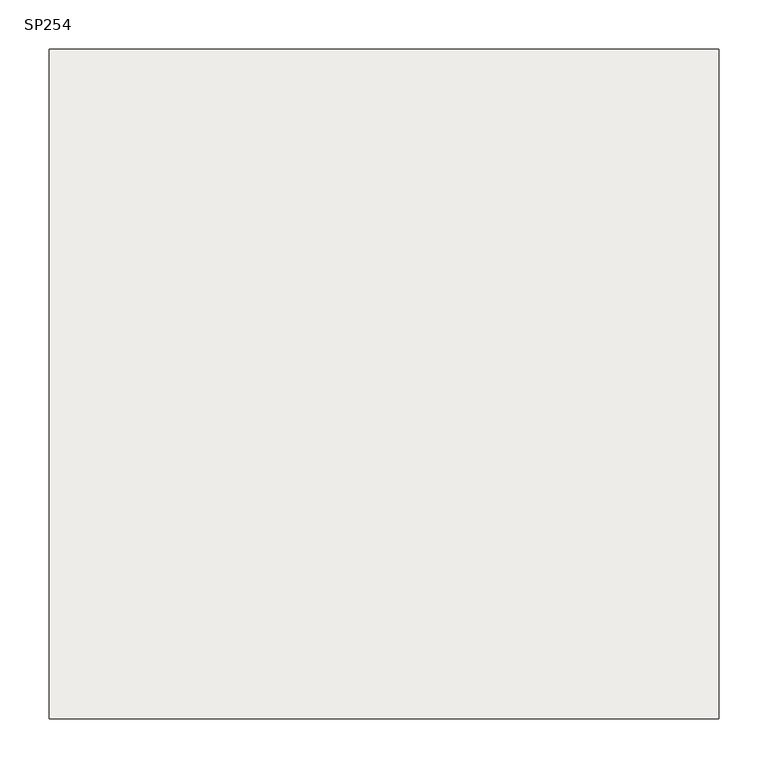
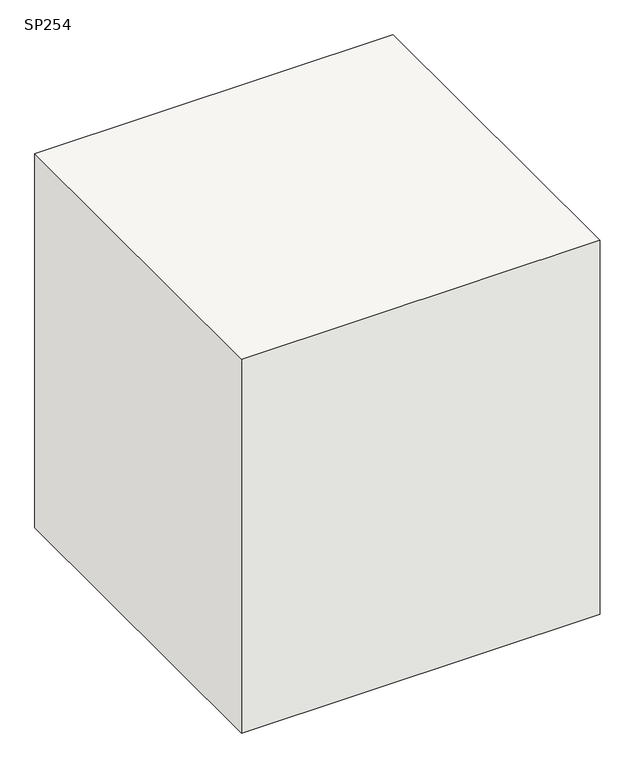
"""IFC4 building model written with IfcOpenShell, lengths in millimetres: slab geometry, 柱形_SP : SP254."""

import ifcopenshell
import ifcopenshell.guid

model = None  # the IFC model being written
_history = None  # IfcOwnerHistory: only IFC2X3 demands one
_inside = {}  # id of a spatial element -> (the spatial element, [elements in it])
_under = {}  # id of a project, library or spatial element -> (it, [spatial elements below it])
_declared = {}  # id of a project -> (the project, [libraries it declares])
_typed = {}  # id of a type object -> (the type object, [elements of that type])
_made_of = {}  # id of a material, layer set ... -> (it, [elements and type objects made of it])


def new_model(schema):
    """Start an empty IFC model of exactly this schema.

    Asked for "IFC4X3", IfcOpenShell would pick the latest addendum, in which some entities
    have other attributes; the version numbers below select the first issue.
    IFC2X3 requires an IfcOwnerHistory on every rooted entity: one is made here for all.
    """
    global model, _history
    if schema == "IFC4X3":
        model = ifcopenshell.file(schema_version=(4, 3, 0, 0))
    else:
        model = ifcopenshell.file(schema=schema)
    _inside.clear()
    _under.clear()
    _declared.clear()
    _typed.clear()
    _made_of.clear()
    _history = None
    if model.schema == "IFC2X3":
        org = make("IfcOrganization", Name="unknown")
        user = make(
            "IfcPersonAndOrganization",
            ThePerson=make("IfcPerson", FamilyName="unknown"),
            TheOrganization=org,
        )
        app = make(
            "IfcApplication",
            ApplicationDeveloper=org,
            Version="unknown",
            ApplicationFullName="unknown",
            ApplicationIdentifier="unknown",
        )
        _history = make(
            "IfcOwnerHistory",
            OwningUser=user,
            OwningApplication=app,
            ChangeAction="ADDED",
            CreationDate=0,
        )
    return model


def make(cls, **values):
    """One entity of the class cls with the attributes given. An attribute that is None is left unset."""
    return model.create_entity(
        cls, **{name: value for name, value in values.items() if value is not None}
    )


def rooted(cls, **values):
    """An entity with a GlobalId (a new one), such as an element, a storey or a relation."""
    return make(cls, GlobalId=ifcopenshell.guid.new(), OwnerHistory=_history, **values)


def si_unit(unit_type, name, prefix=None):
    """IfcSIUnit, for example si_unit("LENGTHUNIT", "METRE", prefix="MILLI")."""
    return make("IfcSIUnit", UnitType=unit_type, Prefix=prefix, Name=name)


def assignment(units):
    """IfcUnitAssignment: the units of a project."""
    return None if units is None else make("IfcUnitAssignment", Units=units)


def point(xyz):
    """IfcCartesianPoint."""
    return None if xyz is None else make("IfcCartesianPoint", Coordinates=xyz)


def direction(xyz):
    """IfcDirection."""
    return None if xyz is None else make("IfcDirection", DirectionRatios=xyz)


def frame(location, z_axis=None, x_axis=None):
    """IfcAxis2Placement3D, a coordinate frame: its origin and axes. An axis left out is left unset."""
    return make(
        "IfcAxis2Placement3D",
        Location=point(location),
        Axis=direction(z_axis),
        RefDirection=direction(x_axis),
    )


def origin():
    """The frame at (0, 0, 0) with its axes left unset."""
    return frame((0.0, 0.0, 0.0))


def place(relative_to, where):
    """IfcLocalPlacement: puts the frame where relative to a parent placement (None: the world)."""
    return make(
        "IfcLocalPlacement", PlacementRelTo=relative_to, RelativePlacement=where
    )


def context(
    kind, dimensions, precision=None, world=None, true_north=None, identifier=None
):
    """IfcGeometricRepresentationContext, for example the 3D "Model" context."""
    return make(
        "IfcGeometricRepresentationContext",
        ContextIdentifier=identifier,
        ContextType=kind,
        CoordinateSpaceDimension=dimensions,
        Precision=precision,
        WorldCoordinateSystem=world,
        TrueNorth=true_north,
    )


def project(units=None, contexts=None):
    """IfcProject with its units and contexts."""
    return rooted(
        "IfcProject",
        Name="project",
        RepresentationContexts=contexts,
        UnitsInContext=assignment(units),
    )


def spatial(cls, under=None, at=None, **own):
    """A site, building, storey or space (cls), placed at a placement, below another one or the project."""
    s = rooted(cls, ObjectPlacement=at, **own)
    if under is not None:
        _under.setdefault(under.id(), (under, []))[1].append(s)
    return s


def polyline(points):
    """IfcPolyline through the points."""
    return make("IfcPolyline", Points=[point(p) for p in points])


def outline(outer, holes=None, kind="AREA"):
    """IfcArbitraryClosedProfileDef: a profile drawn as a closed curve; with holes, ...WithVoids."""
    if holes is None:
        return make("IfcArbitraryClosedProfileDef", ProfileType=kind, OuterCurve=outer)
    return make(
        "IfcArbitraryProfileDefWithVoids",
        ProfileType=kind,
        OuterCurve=outer,
        InnerCurves=holes,
    )


def extrude(swept, where, along, depth):
    """IfcExtrudedAreaSolid: the profile swept, set in the frame where, extruded along a direction by depth."""
    return make(
        "IfcExtrudedAreaSolid",
        SweptArea=swept,
        Position=where,
        ExtrudedDirection=direction(along),
        Depth=depth,
    )


def shape(context_of_items, identifier, shape_type, items):
    """IfcShapeRepresentation: the items that make up one representation, for example the "Body"."""
    return make(
        "IfcShapeRepresentation",
        ContextOfItems=context_of_items,
        RepresentationIdentifier=identifier,
        RepresentationType=shape_type,
        Items=items,
    )


def source(mapping_origin, context_of_items, identifier, shape_type, items):
    """IfcRepresentationMap: a shape defined once, which mapped items show again and again."""
    return make(
        "IfcRepresentationMap",
        MappingOrigin=mapping_origin,
        MappedRepresentation=shape(context_of_items, identifier, shape_type, items),
    )


def transform(
    local_origin,
    x_axis=None,
    y_axis=None,
    z_axis=None,
    scale=None,
    scale2=None,
    scale3=None,
    uniform=True,
):
    """IfcCartesianTransformationOperator3D, or its non-uniform kind. x_axis, y_axis, z_axis: its Axis1, 2, 3."""
    if uniform:
        return make(
            "IfcCartesianTransformationOperator3D",
            Axis1=direction(x_axis),
            Axis2=direction(y_axis),
            LocalOrigin=point(local_origin),
            Scale=scale,
            Axis3=direction(z_axis),
        )
    return make(
        "IfcCartesianTransformationOperator3DnonUniform",
        Axis1=direction(x_axis),
        Axis2=direction(y_axis),
        LocalOrigin=point(local_origin),
        Scale=scale,
        Axis3=direction(z_axis),
        Scale2=scale2,
        Scale3=scale3,
    )


def mapped(mapping_source, mapping_target):
    """IfcMappedItem: shows the shape of a source again, moved by a transform."""
    return make(
        "IfcMappedItem", MappingSource=mapping_source, MappingTarget=mapping_target
    )


def made_of(thing, what):
    """Note that an element or type object is made of a material, layer set ...; save() writes the relation."""
    if what is not None:
        _made_of.setdefault(what.id(), (what, []))[1].append(thing)
    return thing


def element(
    cls,
    number,
    at=None,
    inside=None,
    cuts=None,
    type_object=None,
    material=None,
    context=None,
    identifier="Body",
    shape_type=None,
    held_by="IfcProductDefinitionShape",
    body=None,
    shapes=None,
    **own,
):
    """One element of the class cls, such as IfcWall. Its Tag is "e" and its number.

    at: its placement. inside: the storey or other place that contains it. cuts: it is an
    opening in that element (IfcRelVoidsElement). A single representation is given by context,
    identifier, shape_type and body (its items); several are given by shapes. held_by: the class
    of the entity that holds the representations. save() writes the other relations.
    """
    e = rooted(cls, Tag="e%d" % number, ObjectPlacement=at, **own)
    if body is not None:
        shapes = [shape(context, identifier, shape_type, body)]
    if shapes is not None:
        e.Representation = make(held_by, Representations=shapes)
    if inside is not None:
        _inside.setdefault(inside.id(), (inside, []))[1].append(e)
    if cuts is not None:
        rooted(
            "IfcRelVoidsElement", RelatingBuildingElement=cuts, RelatedOpeningElement=e
        )
    if type_object is not None:
        _typed.setdefault(type_object.id(), (type_object, []))[1].append(e)
    return made_of(e, material)


def aggregate(whole, parts):
    """IfcRelAggregates: a whole, such as a stair, and the parts it consists of."""
    return rooted("IfcRelAggregates", RelatingObject=whole, RelatedObjects=parts)


def save(model, path):
    """Write the relations noted so far, then the file.

    IfcRelAggregates (storeys below a building ...), IfcRelContainedInSpatialStructure (elements
    in a storey), IfcRelDefinesByType, IfcRelAssociatesMaterial and IfcRelDeclares: one each for
    every whole, place, type object, material and project.
    """
    for whole, parts in _under.values():
        aggregate(whole, parts)
    for where, things in _inside.values():
        rooted(
            "IfcRelContainedInSpatialStructure",
            RelatedElements=things,
            RelatingStructure=where,
        )
    for kind, things in _typed.values():
        rooted("IfcRelDefinesByType", RelatedObjects=things, RelatingType=kind)
    for what, things in _made_of.values():
        rooted("IfcRelAssociatesMaterial", RelatedObjects=things, RelatingMaterial=what)
    for by, libraries in _declared.values():
        rooted("IfcRelDeclares", RelatingContext=by, RelatedDefinitions=libraries)
    model.write(path)


def sp254_342b2ffc(model_context):
    return source(origin(), model_context, "Body", "SweptSolid", [
        extrude(outline(polyline([(340.0, 340.0), (340.0, -340.0), (-340.0, -340.0), (-340.0, 340.0), (340.0, 340.0)])), frame((0.0, 0.0, -750.0), z_axis=(0.0, 0.0, 1.0), x_axis=(1.0, 0.0, 0.0)), (0.0, 0.0, 1.0), 750.0),
    ])


if __name__ == "__main__":
    model = new_model("IFC4")
    model_context = context("Model", 3, world=origin())
    ifc_project = project(units=[si_unit("LENGTHUNIT", "METRE", prefix="MILLI")], contexts=[model_context])
    site = spatial("IfcSite", under=ifc_project)
    building = spatial("IfcBuilding", under=site)
    placement = place(None, origin())
    sp254_shape = sp254_342b2ffc(model_context)
    element("IfcSlab", 1, ObjectType="柱形_SP : SP254", at=placement, inside=building, context=model_context, shape_type="MappedRepresentation", body=[
        mapped(sp254_shape, transform((0.0, 0.0, 0.0), x_axis=(1.0, 0.0, 0.0), y_axis=(0.0, 1.0, 0.0), z_axis=(0.0, 0.0, 1.0))),
    ])
    save(model, "model.ifc")
